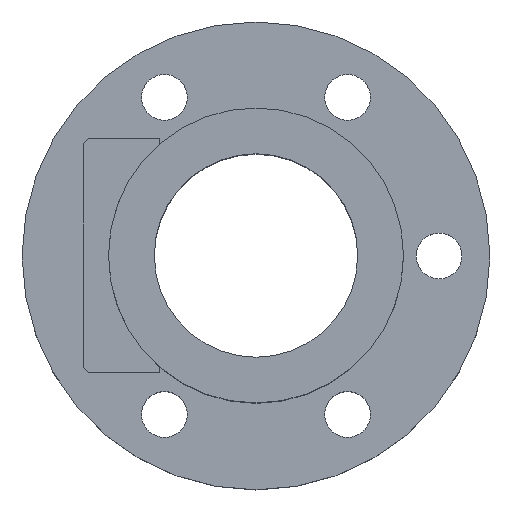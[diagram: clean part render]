
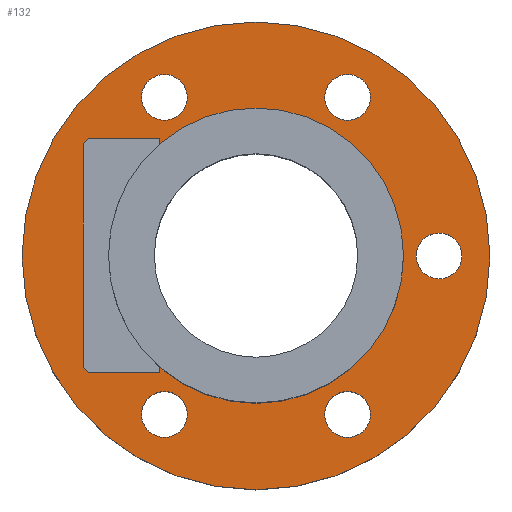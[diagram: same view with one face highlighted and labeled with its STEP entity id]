
A CAD part, top view. The second image highlights one B-rep face of the part: STEP entity #132.
In plain terms, the highlighted planar face has unit normal (0, 0, 1).
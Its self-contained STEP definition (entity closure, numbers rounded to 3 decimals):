
#97=PLANE('',#557);
#114=FACE_OUTER_BOUND('',#269,.T.);
#132=ADVANCED_FACE('',(#221,#222,#223,#114,#224,#225,#226),#97,.T.);
#221=FACE_BOUND('',#266,.T.);
#222=FACE_BOUND('',#267,.T.);
#223=FACE_BOUND('',#268,.T.);
#224=FACE_BOUND('',#270,.T.);
#225=FACE_BOUND('',#271,.T.);
#226=FACE_BOUND('',#272,.T.);
#266=EDGE_LOOP('',(#331));
#267=EDGE_LOOP('',(#332));
#268=EDGE_LOOP('',(#333));
#269=EDGE_LOOP('',(#334));
#270=EDGE_LOOP('',(#335));
#271=EDGE_LOOP('',(#336));
#272=EDGE_LOOP('',(#337));
#331=ORIENTED_EDGE('',*,*,#473,.F.);
#332=ORIENTED_EDGE('',*,*,#474,.F.);
#333=ORIENTED_EDGE('',*,*,#468,.F.);
#334=ORIENTED_EDGE('',*,*,#475,.T.);
#335=ORIENTED_EDGE('',*,*,#476,.F.);
#336=ORIENTED_EDGE('',*,*,#477,.F.);
#337=ORIENTED_EDGE('',*,*,#478,.F.);
#426=VERTEX_POINT('',#748);
#431=VERTEX_POINT('',#759);
#432=VERTEX_POINT('',#761);
#433=VERTEX_POINT('',#763);
#434=VERTEX_POINT('',#765);
#435=VERTEX_POINT('',#767);
#436=VERTEX_POINT('',#769);
#468=EDGE_CURVE('',#426,#426,#518,.T.);
#473=EDGE_CURVE('',#431,#431,#521,.T.);
#474=EDGE_CURVE('',#432,#432,#522,.T.);
#475=EDGE_CURVE('',#433,#433,#523,.T.);
#476=EDGE_CURVE('',#434,#434,#524,.T.);
#477=EDGE_CURVE('',#435,#435,#525,.T.);
#478=EDGE_CURVE('',#436,#436,#526,.T.);
#518=CIRCLE('',#547,29.);
#521=CIRCLE('',#551,4.5);
#522=CIRCLE('',#552,4.5);
#523=CIRCLE('',#553,46.);
#524=CIRCLE('',#554,4.5);
#525=CIRCLE('',#555,4.5);
#526=CIRCLE('',#556,4.5);
#547=AXIS2_PLACEMENT_3D('',#747,#608,#609);
#551=AXIS2_PLACEMENT_3D('',#758,#618,#619);
#552=AXIS2_PLACEMENT_3D('',#760,#620,#621);
#553=AXIS2_PLACEMENT_3D('',#762,#622,#623);
#554=AXIS2_PLACEMENT_3D('',#764,#624,#625);
#555=AXIS2_PLACEMENT_3D('',#766,#626,#627);
#556=AXIS2_PLACEMENT_3D('',#768,#628,#629);
#557=AXIS2_PLACEMENT_3D('',#770,#630,#631);
#608=DIRECTION('',(0.,0.,1.));
#609=DIRECTION('',(1.,0.,0.));
#618=DIRECTION('',(0.,0.,1.));
#619=DIRECTION('',(-0.5,-0.866,0.));
#620=DIRECTION('',(0.,0.,1.));
#621=DIRECTION('',(0.5,0.866,0.));
#622=DIRECTION('',(0.,0.,1.));
#623=DIRECTION('',(1.,0.,0.));
#624=DIRECTION('',(0.,0.,1.));
#625=DIRECTION('',(1.,0.,0.));
#626=DIRECTION('',(0.,0.,1.));
#627=DIRECTION('',(-1.,0.,0.));
#628=DIRECTION('',(0.,0.,1.));
#629=DIRECTION('',(0.5,-0.866,0.));
#630=DIRECTION('',(0.,0.,1.));
#631=DIRECTION('',(1.,0.,0.));
#747=CARTESIAN_POINT('',(0.,0.,16.));
#748=CARTESIAN_POINT('',(29.,0.,16.));
#758=CARTESIAN_POINT('',(18.,-31.177,16.));
#759=CARTESIAN_POINT('',(15.75,-35.074,16.));
#760=CARTESIAN_POINT('',(-18.,31.177,16.));
#761=CARTESIAN_POINT('',(-15.75,35.074,16.));
#762=CARTESIAN_POINT('',(0.,0.,16.));
#763=CARTESIAN_POINT('',(46.,0.,16.));
#764=CARTESIAN_POINT('',(18.,31.177,16.));
#765=CARTESIAN_POINT('',(22.5,31.177,16.));
#766=CARTESIAN_POINT('',(-18.,-31.177,16.));
#767=CARTESIAN_POINT('',(-22.5,-31.177,16.));
#768=CARTESIAN_POINT('',(36.,0.,16.));
#769=CARTESIAN_POINT('',(38.25,-3.897,16.));
#770=CARTESIAN_POINT('',(0.,0.,16.));
